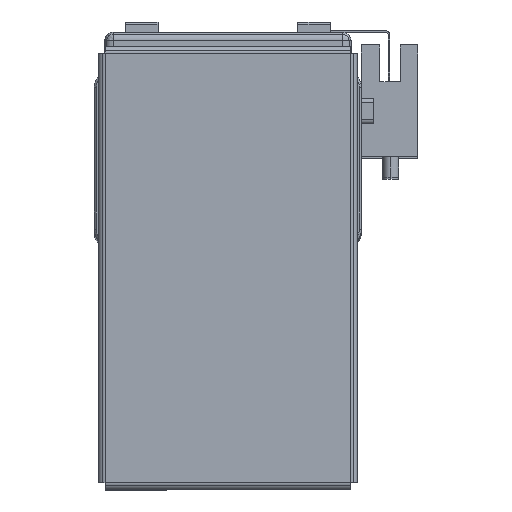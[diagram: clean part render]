
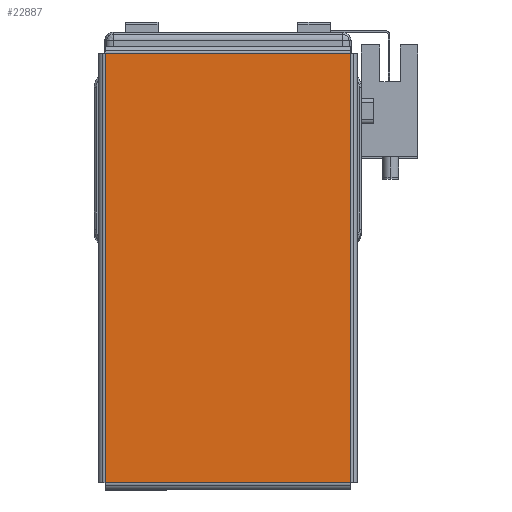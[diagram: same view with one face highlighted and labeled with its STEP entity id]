
A CAD part, top view. The second image highlights one B-rep face of the part: STEP entity #22887.
In plain terms, the highlighted planar face has unit normal (0, 0, 1) as drawn and (0, -1, 0) by its records, which use the part's own axes.
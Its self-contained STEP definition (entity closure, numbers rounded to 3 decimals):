
#1004 = CARTESIAN_POINT ( 'NONE',  ( 0., -1., 0. ) ) ;
#1006 = DIRECTION ( 'NONE',  ( 0., 0., 1. ) ) ;
#1020 = DIRECTION ( 'NONE',  ( 0., 1., 0. ) ) ;
#1028 = PLANE ( 'NONE',  #24833 ) ;
#3951 = VECTOR ( 'NONE', #28516, 1000. ) ;
#3995 = LINE ( 'NONE', #28504, #3951 ) ;
#7135 = EDGE_LOOP ( 'NONE', ( #7805, #7820, #7777, #7804 ) ) ;
#7777 = ORIENTED_EDGE ( 'NONE', *, *, #21189, .T. ) ;
#7804 = ORIENTED_EDGE ( 'NONE', *, *, #21140, .T. ) ;
#7805 = ORIENTED_EDGE ( 'NONE', *, *, #21183, .T. ) ;
#7820 = ORIENTED_EDGE ( 'NONE', *, *, #21176, .T. ) ;
#11324 = VERTEX_POINT ( 'NONE', #12416 ) ;
#11339 = VERTEX_POINT ( 'NONE', #12378 ) ;
#11359 = VERTEX_POINT ( 'NONE', #12418 ) ;
#11377 = VERTEX_POINT ( 'NONE', #12432 ) ;
#12378 = CARTESIAN_POINT ( 'NONE',  ( 52.263, -1., 29.863 ) ) ;
#12416 = CARTESIAN_POINT ( 'NONE',  ( -52.263, -1., -29.863 ) ) ;
#12418 = CARTESIAN_POINT ( 'NONE',  ( 52.263, -1., -29.863 ) ) ;
#12432 = CARTESIAN_POINT ( 'NONE',  ( -52.263, -1., 29.863 ) ) ;
#21140 = EDGE_CURVE ( 'NONE', #11359, #11339, #3995, .T. ) ;
#21176 = EDGE_CURVE ( 'NONE', #11377, #11324, #29244, .T. ) ;
#21183 = EDGE_CURVE ( 'NONE', #11339, #11377, #29251, .T. ) ;
#21189 = EDGE_CURVE ( 'NONE', #11324, #11359, #29237, .T. ) ;
#22887 = ADVANCED_FACE ( 'NONE', ( #30095 ), #1028, .F. ) ;
#24833 = AXIS2_PLACEMENT_3D ( 'NONE', #1004, #1020, #1006 ) ;
#28504 = CARTESIAN_POINT ( 'NONE',  ( 52.263, -1., -29.893 ) ) ;
#28516 = DIRECTION ( 'NONE',  ( 0., 0., 1. ) ) ;
#28584 = DIRECTION ( 'NONE',  ( 0., 0., -1. ) ) ;
#28607 = CARTESIAN_POINT ( 'NONE',  ( -52.263, -1., 29.893 ) ) ;
#28614 = CARTESIAN_POINT ( 'NONE',  ( 52.293, -1., 29.863 ) ) ;
#28627 = DIRECTION ( 'NONE',  ( -1., 0., 0. ) ) ;
#28631 = CARTESIAN_POINT ( 'NONE',  ( -52.293, -1., -29.863 ) ) ;
#28636 = DIRECTION ( 'NONE',  ( 1., 0., 0. ) ) ;
#29223 = VECTOR ( 'NONE', #28584, 1000. ) ;
#29225 = VECTOR ( 'NONE', #28627, 1000. ) ;
#29237 = LINE ( 'NONE', #28631, #29238 ) ;
#29238 = VECTOR ( 'NONE', #28636, 1000. ) ;
#29244 = LINE ( 'NONE', #28607, #29223 ) ;
#29251 = LINE ( 'NONE', #28614, #29225 ) ;
#30095 = FACE_OUTER_BOUND ( 'NONE', #7135, .T. ) ;
